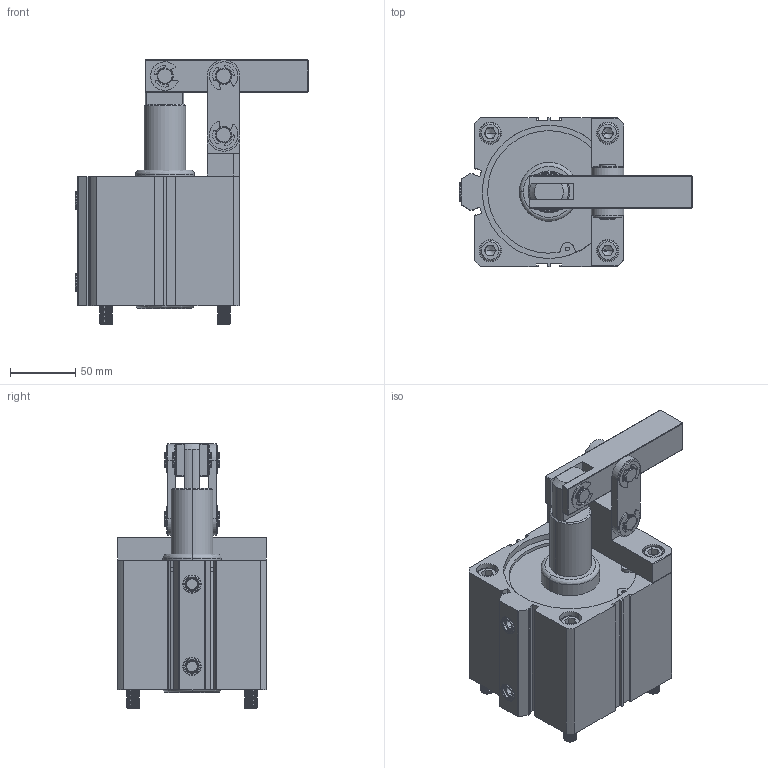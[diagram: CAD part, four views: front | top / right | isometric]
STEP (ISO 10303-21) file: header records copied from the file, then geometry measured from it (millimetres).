
FILE_DESCRIPTION(('FreeCAD Model'),'2;1');
FILE_NAME('Open CASCADE Shape Model','2021-08-17T17:38:10',('Author'),( ''),'Open CASCADE STEP processor 7.4','FreeCAD','Unknown');
FILE_SCHEMA(('AUTOMOTIVE_DESIGN { 1 0 10303 214 1 1 1 1 }'));
Length unit declared in the file: millimetre
Products named in the file (9): PLP-100; DESETEC001; DESETEC002; DESETEC003; DESETEC006; DESETEC007; DESETEC008; DESETEC011; DESETEC014
Assembly tree (14 placements, depth 2):
  PLP-100
    DESETEC001  x6
    DESETEC002  x2
    DESETEC003
    DESETEC006
    DESETEC007
    DESETEC008
    DESETEC011
    DESETEC014
Bounding box: 178.5 x 114 x 202.5 mm (x, y, z)
Volume: 1003878.1 mm3; surface area: 280442.5 mm2
Topology: 26 solids, 26 shells, 1567 faces, 9452 edges, 25304 vertices
Faces by surface type: cone 613, cylinder 579, plane 307, bspline 56, torus 12
Entity records: 187985 total; most frequent: CARTESIAN_POINT 73523, DIRECTION 22038, LINE 10175, VECTOR 10175, ORIENTED_EDGE 6494, PCURVE 6494, DEFINITIONAL_REPRESENTATION 6494, AXIS2_PLACEMENT_3D 5834
